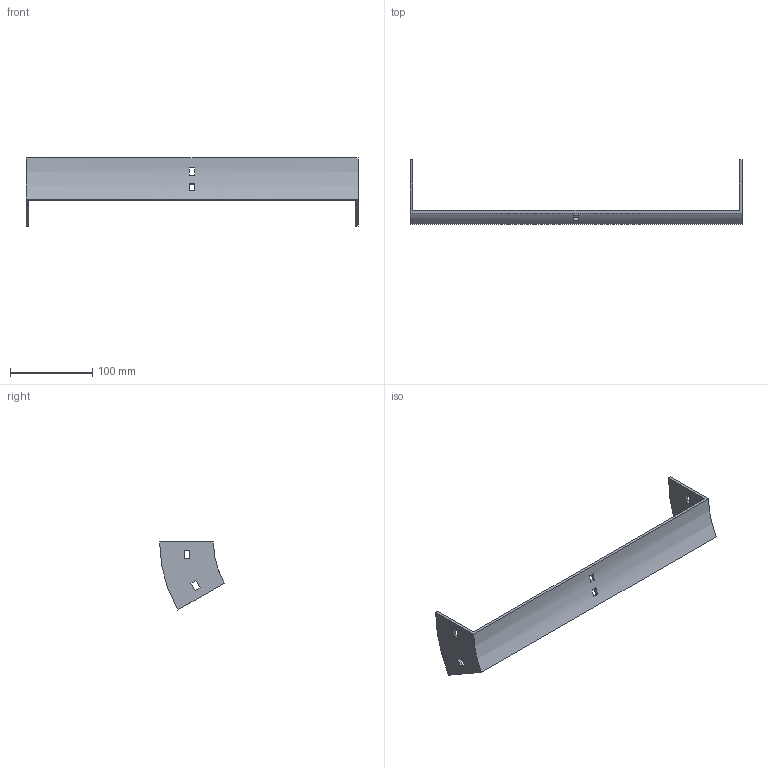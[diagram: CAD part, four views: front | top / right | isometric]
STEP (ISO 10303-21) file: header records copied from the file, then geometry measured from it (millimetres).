
FILE_DESCRIPTION (( 'STEP AP214' ), '1' );
FILE_NAME ('35B1H400.step', '2025-02-21T09:26:05', ( '' ), ( '' ), 'SwSTEP 2.0', 'SolidWorks 2023', '' );
FILE_SCHEMA (( 'AUTOMOTIVE_DESIGN' ));
Length unit declared in the file: millimetre
Products named in the file (1): 35B1H400
Bounding box: 404 x 78.9 x 82.75 mm (x, y, z)
Volume: 104501.4 mm3; surface area: 64707.3 mm2
Topology: 1 solids, 1 shells, 34 faces, 96 edges, 64 vertices
Faces by surface type: plane 30, cylinder 4
Entity records: 1143 total; most frequent: CARTESIAN_POINT 195, ORIENTED_EDGE 192, DIRECTION 182, EDGE_CURVE 96, LINE 80, VECTOR 80, VERTEX_POINT 64, AXIS2_PLACEMENT_3D 51
